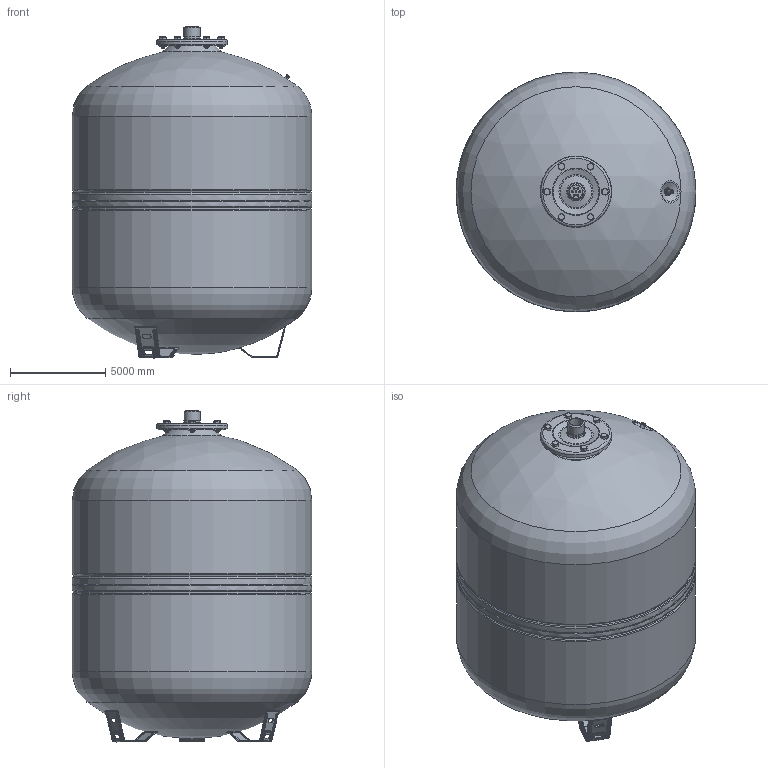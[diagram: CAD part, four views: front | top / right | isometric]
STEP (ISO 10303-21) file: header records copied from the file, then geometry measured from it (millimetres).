
FILE_DESCRIPTION(('STEP AP214'), '1');
FILE_NAME('WRV-100', '', ('UNSPECIFIED'), ('UNSPECIFIED'), 'ASCON STEP Converter 1.3', 'ASCON Math Kernel', '');
FILE_SCHEMA(('AUTOMOTIVE_DESIGN { 1 0 10303 214 3 1 1}'));
Length unit declared in the file: millimetre
Assembly tree (1 placements, depth 2):
  (unnamed)
    (unnamed)
Bounding box: 12590.13 x 12581.56 x 17424.4 mm (x, y, z)
Volume: 1679003858161.6 mm3; surface area: 764030245.5 mm2
Topology: 1 solids, 1 shells, 818 faces, 1945 edges, 1166 vertices
Faces by surface type: cylinder 347, torus 240, bspline 196, cone 33, sphere 2
Full cylindrical faces by diameter (mm): 101.6 x7, 139.7 x1, 203.2 x7, 355.599 x6, 688.34 x1, 844.55 x1, 850.9 x1, 3556 x1, 12573 x4
Entity records: 33754 total; most frequent: CARTESIAN_POINT 8459, DIRECTION 4086, ORIENTED_EDGE 3734, EDGE_CURVE 1867, AXIS2_PLACEMENT_3D 1680, VERTEX_POINT 1165, CIRCLE 1056, EDGE_LOOP 956
